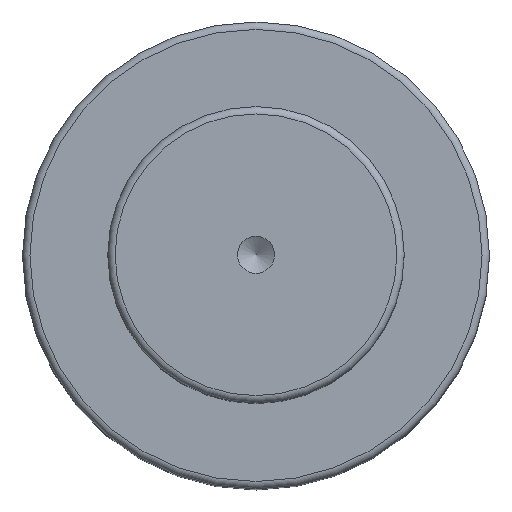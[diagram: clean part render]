
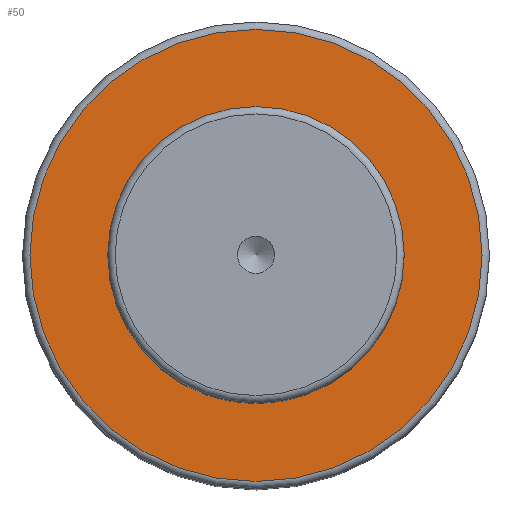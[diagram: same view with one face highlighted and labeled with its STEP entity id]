
A CAD part, top view. The second image highlights one B-rep face of the part: STEP entity #50.
In plain terms, the highlighted planar face has unit normal (0, 0, 1).
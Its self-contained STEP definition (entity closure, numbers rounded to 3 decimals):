
#40=PLANE('',#179);
#50=ADVANCED_FACE('',(#72,#73),#40,.F.);
#72=FACE_BOUND('',#96,.T.);
#73=FACE_BOUND('',#97,.T.);
#96=EDGE_LOOP('',(#118));
#97=EDGE_LOOP('',(#119));
#118=ORIENTED_EDGE('',*,*,#149,.F.);
#119=ORIENTED_EDGE('',*,*,#148,.T.);
#135=VERTEX_POINT('',#256);
#136=VERTEX_POINT('',#259);
#148=EDGE_CURVE('',#135,#135,#159,.T.);
#149=EDGE_CURVE('',#136,#136,#160,.T.);
#159=CIRCLE('',#176,20.);
#160=CIRCLE('',#178,30.5);
#176=AXIS2_PLACEMENT_3D('',#255,#213,#214);
#178=AXIS2_PLACEMENT_3D('',#258,#217,#218);
#179=AXIS2_PLACEMENT_3D('',#260,#219,#220);
#213=DIRECTION('',(0.,0.,-1.));
#214=DIRECTION('',(-1.,0.,0.));
#217=DIRECTION('',(0.,0.,-1.));
#218=DIRECTION('',(-1.,0.,0.));
#219=DIRECTION('',(0.,0.,-1.));
#220=DIRECTION('',(-1.,0.,0.));
#255=CARTESIAN_POINT('',(0.,0.,84.));
#256=CARTESIAN_POINT('',(-20.,0.,84.));
#258=CARTESIAN_POINT('',(0.,0.,84.));
#259=CARTESIAN_POINT('',(-30.5,0.,84.));
#260=CARTESIAN_POINT('',(20.,0.,84.));
